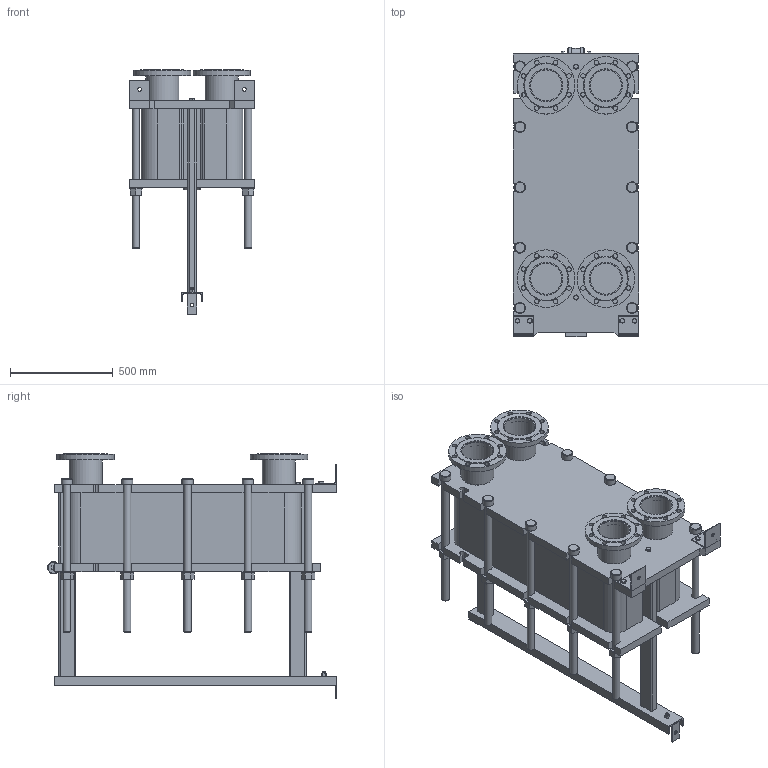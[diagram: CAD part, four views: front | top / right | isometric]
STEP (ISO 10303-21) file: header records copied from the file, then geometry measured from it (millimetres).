
FILE_DESCRIPTION(/* description */ (''),/* implementation_level */ '2;1');
FILE_NAME(/* name */ 'C:\Users\zhuro\Desktop\ENCO\TO\ЭН-041\ЭН-0,5-041-100-1.stp',/* time_stamp */ '2022-06-06T10:58:04+03:00',/* author */ ('zhuro'),/* organization */ (''),/* preprocessor_version */ 'ST-DEVELOPER v18.1',/* originating_system */ 'Autodesk Inventor 2022',/* authorisation */ '');
FILE_SCHEMA (('AUTOMOTIVE_DESIGN { 1 0 10303 214 3 1 1 }'));
Length unit declared in the file: millimetre
Products named in the file (1): ЭН-0,5-041-100-1
Bounding box: 610 x 1406.5 x 1190 mm (x, y, z)
Volume: 274514013.1 mm3; surface area: 9024511.1 mm2
Topology: 52 solids, 52 shells, 711 faces, 1696 edges, 1094 vertices
Faces by surface type: plane 487, cylinder 177, cone 41, torus 6
Full cylindrical faces by diameter (mm): 8 x4, 10 x2, 16 x8, 18 x3, 22 x32, 36 x24, 50 x1, 54 x10, 60 x12, 151 x4, 161 x8, 280 x4
Entity records: 22667 total; most frequent: CARTESIAN_POINT 5230, DIRECTION 3644, ORIENTED_EDGE 3392, EDGE_CURVE 1696, AXIS2_PLACEMENT_3D 1272, LINE 1100, VECTOR 1100, VERTEX_POINT 1094
